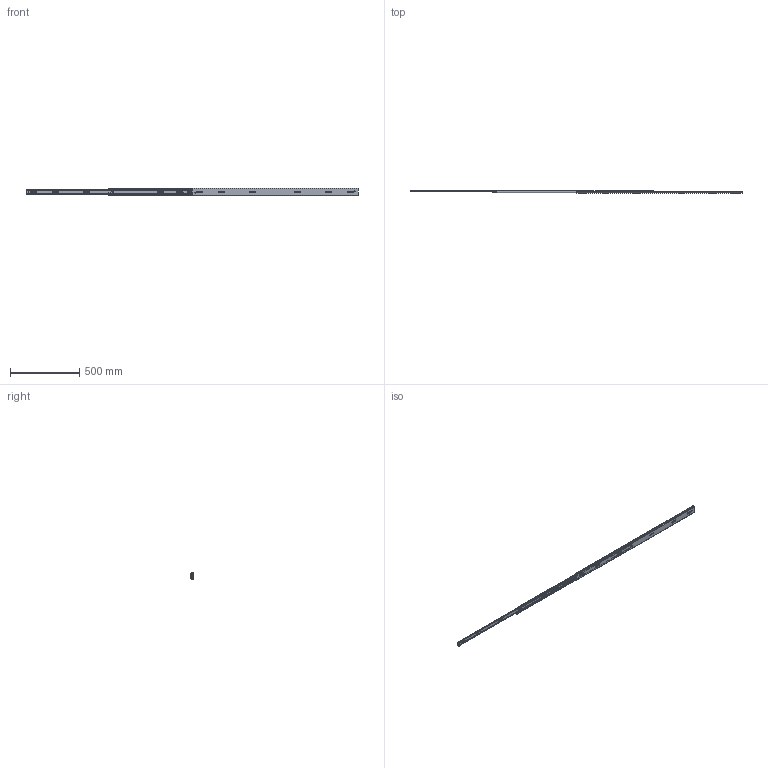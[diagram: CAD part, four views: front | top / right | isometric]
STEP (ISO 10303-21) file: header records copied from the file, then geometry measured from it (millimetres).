
FILE_DESCRIPTION((''),'2;1');
FILE_NAME('1057-C-48_ASM','2025-10-24T',('蔽翩'),(''),'CREO PARAMETRIC BY PTC INC, 2018220','CREO PARAMETRIC BY PTC INC, 2018220','');
FILE_SCHEMA(('CONFIG_CONTROL_DESIGN'));
Products named in the file (21): KP-57-01WEIKE-31____________; MAODING-WAI____________; 1057DAZHUJIA-20GE1____________; 1057ZHUJIADANWEIJIAO123________; 1057-5-6GANZHU1____________; 1057DAZHUJIA-20GE_12____ASM; 1057-C-20-KE_____________ASM; KP-57-01ZHONGGUI-36____; PEIJIAN-22____________; ZHUANJIAO112____________; LIUJIAO-DING11____________; MAODING-P____________; 1057-XIAOJIAOLUN48; PEIJIAN-ZHONG_____________ASM; 1057XIAOZHUJIA___2011; 1057XIAOZHUJIA-20GE11_ASM; KP-57-01ZHONGGUI-36_____ASM; KP-57-01NEIGUI-241____________; XIN-JIAOGUAN48; KP-57-01NEIGUI-241_____________ASM; 1057-C-48_ASM
Assembly tree (195 placements, depth 4):
  1057-C-48_ASM
    1057-C-20-KE_____________ASM
      KP-57-01WEIKE-31____________
      MAODING-WAI____________  x2
      1057DAZHUJIA-20GE_12____ASM
        1057DAZHUJIA-20GE1____________
        1057ZHUJIADANWEIJIAO123________  x2
        1057-5-6GANZHU1____________  x84
    KP-57-01ZHONGGUI-36_____ASM
      KP-57-01ZHONGGUI-36____
      PEIJIAN-ZHONG_____________ASM  x2
        PEIJIAN-22____________
        ZHUANJIAO112____________
        LIUJIAO-DING11____________
        MAODING-P____________
        1057-XIAOJIAOLUN48
      MAODING-WAI____________  x2
      1057XIAOZHUJIA-20GE11_ASM
        1057XIAOZHUJIA___2011
        1057-5-6GANZHU1____________  x84
        1057ZHUJIADANWEIJIAO123________  x2
    KP-57-01NEIGUI-241_____________ASM
      KP-57-01NEIGUI-241____________
      XIN-JIAOGUAN48  x2
Bounding box: 2400 x 19.8 x 57.7 mm (x, y, z)
Volume: 517178.2 mm3; surface area: 604089.3 mm2
Topology: 193 solids, 193 shells, 4846 faces, 13486 edges, 8348 vertices
Faces by surface type: plane 2166, cylinder 1982, sphere 342, bspline 138, cone 114, torus 96, extrusion 8
Entity records: 139709 total; most frequent: CARTESIAN_POINT 29199, DIRECTION 23520, ORIENTED_EDGE 22902, EDGE_CURVE 11451, AXIS2_PLACEMENT_3D 8116, VERTEX_POINT 7370, VECTOR 7288, LINE 7284
